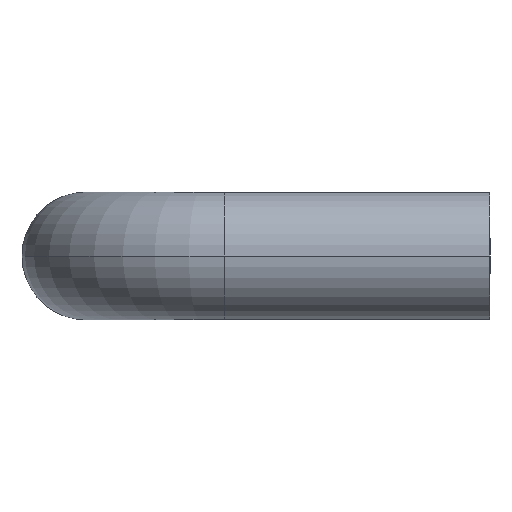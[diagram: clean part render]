
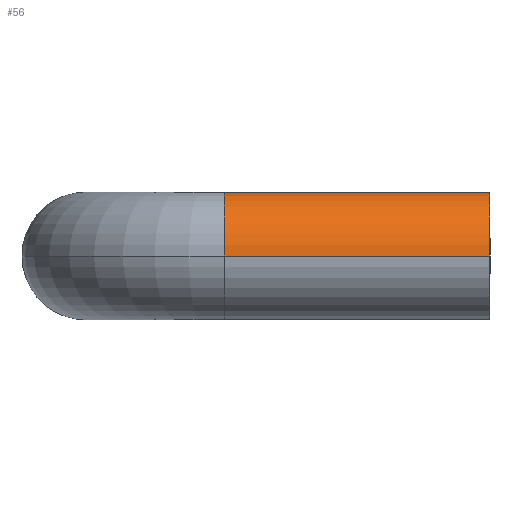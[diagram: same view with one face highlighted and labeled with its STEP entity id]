
A CAD part, left-side view. The second image highlights one B-rep face of the part: STEP entity #56.
In plain terms, the highlighted cylindrical face has radius 3 mm (diameter 6 mm), a partial arc.
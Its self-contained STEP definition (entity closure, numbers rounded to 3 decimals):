
#18 = CARTESIAN_POINT ( 'NONE',  ( -20., -6.5, 0. ) ) ;
#34 = DIRECTION ( 'NONE',  ( 0., -1., 0. ) ) ;
#35 = DIRECTION ( 'NONE',  ( 1., 0., 0. ) ) ;
#56 = ADVANCED_FACE ( 'NONE', ( #275 ), #279, .T. ) ;
#104 = EDGE_CURVE ( 'NONE', #159, #154, #318, .T. ) ;
#105 = EDGE_CURVE ( 'NONE', #159, #164, #320, .T. ) ;
#106 = EDGE_CURVE ( 'NONE', #164, #146, #315, .T. ) ;
#107 = EDGE_CURVE ( 'NONE', #154, #146, #323, .T. ) ;
#132 = AXIS2_PLACEMENT_3D ( 'NONE', #18, #34, #35 ) ;
#146 = VERTEX_POINT ( 'NONE', #486 ) ;
#154 = VERTEX_POINT ( 'NONE', #494 ) ;
#159 = VERTEX_POINT ( 'NONE', #499 ) ;
#164 = VERTEX_POINT ( 'NONE', #504 ) ;
#167 = ORIENTED_EDGE ( 'NONE', *, *, #104, .F. ) ;
#182 = ORIENTED_EDGE ( 'NONE', *, *, #105, .T. ) ;
#183 = ORIENTED_EDGE ( 'NONE', *, *, #106, .T. ) ;
#184 = ORIENTED_EDGE ( 'NONE', *, *, #107, .F. ) ;
#252 = EDGE_LOOP ( 'NONE', ( #167, #182, #183, #184 ) ) ;
#275 = FACE_OUTER_BOUND ( 'NONE', #252, .T. ) ;
#279 = CYLINDRICAL_SURFACE ( 'NONE', #132, 3. ) ;
#315 = CIRCLE ( 'NONE', #365, 3. ) ;
#318 = CIRCLE ( 'NONE', #364, 3. ) ;
#320 = LINE ( 'NONE', #450, #322 ) ;
#322 = VECTOR ( 'NONE', #451, 1000. ) ;
#323 = LINE ( 'NONE', #459, #325 ) ;
#325 = VECTOR ( 'NONE', #455, 1000. ) ;
#364 = AXIS2_PLACEMENT_3D ( 'NONE', #456, #457, #458 ) ;
#365 = AXIS2_PLACEMENT_3D ( 'NONE', #461, #462, #463 ) ;
#450 = CARTESIAN_POINT ( 'NONE',  ( -23., -6.5, 0. ) ) ;
#451 = DIRECTION ( 'NONE',  ( 0., -1., 0. ) ) ;
#455 = DIRECTION ( 'NONE',  ( 0., -1., 0. ) ) ;
#456 = CARTESIAN_POINT ( 'NONE',  ( -20., -6.5, 0. ) ) ;
#457 = DIRECTION ( 'NONE',  ( 0., 1., 0. ) ) ;
#458 = DIRECTION ( 'NONE',  ( -1., 0., 0. ) ) ;
#459 = CARTESIAN_POINT ( 'NONE',  ( -17., -6.5, 0. ) ) ;
#461 = CARTESIAN_POINT ( 'NONE',  ( -20., -19., 0. ) ) ;
#462 = DIRECTION ( 'NONE',  ( 0., 1., 0. ) ) ;
#463 = DIRECTION ( 'NONE',  ( -1., 0., 0. ) ) ;
#486 = CARTESIAN_POINT ( 'NONE',  ( -17., -19., 0. ) ) ;
#494 = CARTESIAN_POINT ( 'NONE',  ( -17., -6.5, 0. ) ) ;
#499 = CARTESIAN_POINT ( 'NONE',  ( -23., -6.5, 0. ) ) ;
#504 = CARTESIAN_POINT ( 'NONE',  ( -23., -19., 0. ) ) ;
